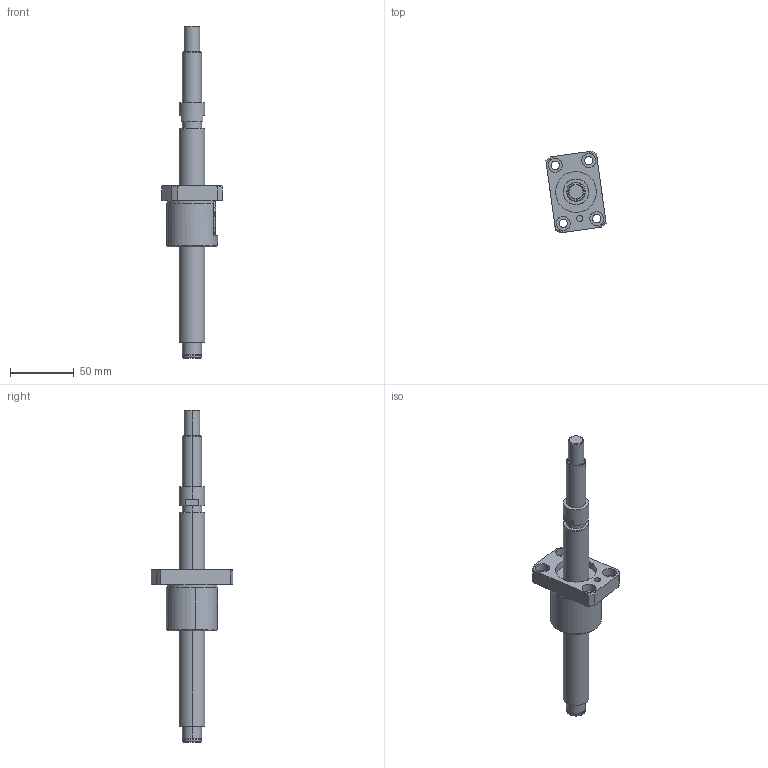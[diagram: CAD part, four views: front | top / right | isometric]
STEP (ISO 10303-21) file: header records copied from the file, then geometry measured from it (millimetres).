
FILE_DESCRIPTION (( 'STEP AP203' ), '1' );
FILE_NAME ('TS2005_assy_20160716.STEP', '2016-07-16T04:56:13', ( 'user' ), ( 'Hewlett-Packard Company' ), 'SwSTEP 2.0', 'SolidWorks 2014', '' );
FILE_SCHEMA (( 'CONFIG_CONTROL_DESIGN' ));
Length unit declared in the file: millimetre
Products named in the file (3): TS2005_nut; TS2005_screw; TS2005_assy_20160716
Assembly tree (2 placements, depth 2):
  TS2005_assy_20160716
    TS2005_nut
    TS2005_screw
Bounding box: 47.14 x 63.81 x 260 mm (x, y, z)
Volume: 117272.6 mm3; surface area: 31800.6 mm2
Topology: 2 solids, 2 shells, 115 faces, 274 edges, 177 vertices
Faces by surface type: cylinder 53, plane 34, cone 24, sphere 4
Entity records: 3690 total; most frequent: CARTESIAN_POINT 643, DIRECTION 623, ORIENTED_EDGE 540, EDGE_CURVE 270, AXIS2_PLACEMENT_3D 259, VERTEX_POINT 175, EDGE_LOOP 141, CIRCLE 139
